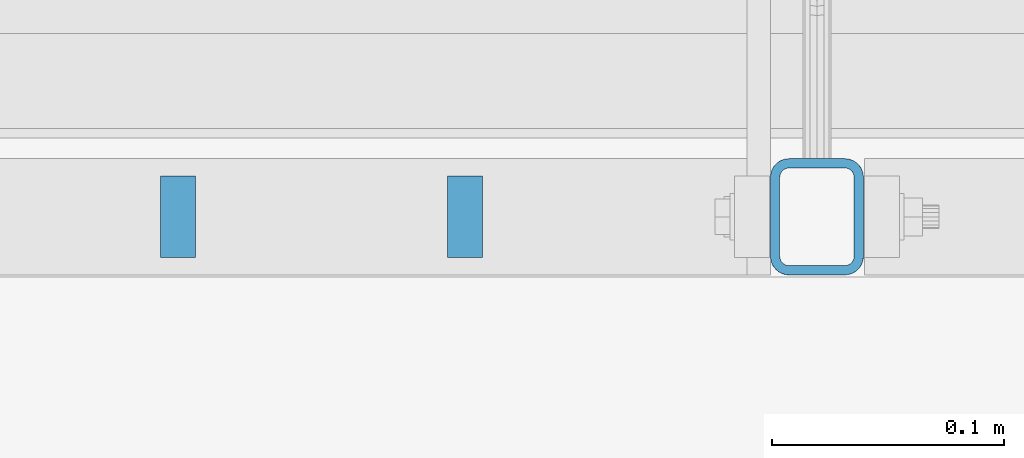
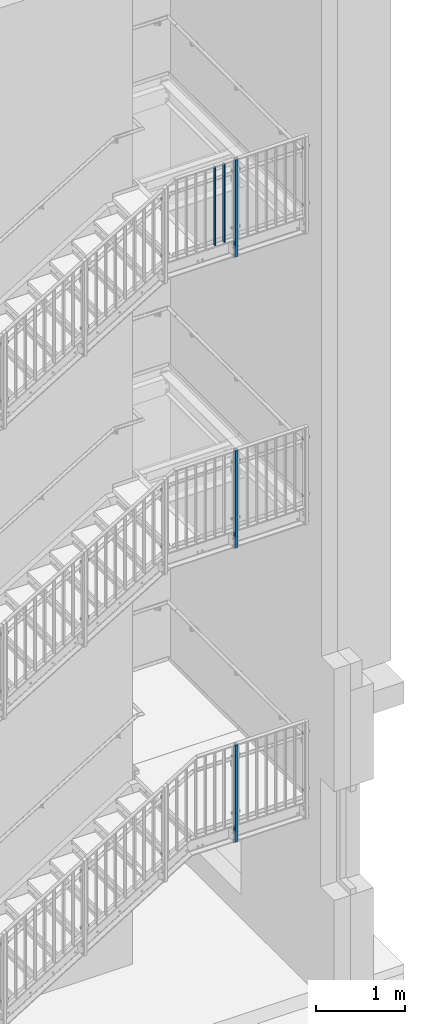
# One storey, part 20 of 410: 5 columns, 24 openings.
"""IFC2X3 building model written with IfcOpenShell, lengths in millimetres."""

from ifc_helpers import new_model, entity, si_unit, converted_unit, frame, frame_2d, origin, origin_with_axes, origin_2d, place, context, project, spatial, rectangle, hollow_rectangle, circle, extrude, clip, halfspace, material, element, save


model = new_model("IFC2X3")

# Units and contexts
model_context = context("Model", 3, precision=1e-09, world=origin_with_axes())
ifc_project = project(units=[si_unit("LENGTHUNIT", "METRE", prefix="MILLI"), si_unit("AREAUNIT", "SQUARE_METRE"), si_unit("VOLUMEUNIT", "CUBIC_METRE"), converted_unit("PLANEANGLEUNIT", "DEGREE", entity("IfcPlaneAngleMeasure", 0.01745329), si_unit("PLANEANGLEUNIT", "RADIAN"), dimensions=[0, 0, 0, 0, 0, 0, 0])], contexts=[model_context])

# Site, building, storey
site_placement = place(None, origin_with_axes())
site = spatial("IfcSite", under=ifc_project, at=site_placement, Name="mKR Teilneubau & Sanierung BA1 - Ostfildern", CompositionType="ELEMENT")
building_placement = place(site_placement, origin_with_axes())
building = spatial("IfcBuilding", under=site, at=building_placement, Name="Struktur 1", CompositionType="ELEMENT")
storey_placement = place(building_placement, origin_with_axes())
storey = spatial("IfcBuildingStorey", under=building, at=storey_placement, Name="Default Storey", CompositionType="ELEMENT", Elevation=0.0)

# Column, openings
ifc_material = material(Name="S235JR")
column_1_placement = place(None, frame((2285.001468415, 15405.999999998, 7020.0), z_axis=(0.0, 0.0, 1.0), x_axis=(-1.0, 0.0, 0.0)))
column_1 = element("IfcColumn", 1, at=column_1_placement, inside=storey, material=ifc_material, Name="-", ObjectType="-", context=model_context, shape_type="Clipping", body=[
    clip(extrude(hollow_rectangle(XDim=40.0, YDim=50.0, WallThickness=4.0, InnerFilletRadius=4.0, OuterFilletRadius=8.0, at=origin_2d()), origin(), (0.0, 0.0, -1.0), 1444.603221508), halfspace(frame((2285.001468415, 7677.073420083, 4018.051089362), z_axis=(0.0, -0.573576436, 0.819152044), x_axis=(1.0, 0.0, 0.0)), True)),
])
opening_1_placement = place(column_1_placement, frame((-20.5, 0.0, -1265.0), z_axis=(1.0, 0.0, 0.0), x_axis=(0.0, 1.0, 0.0)))
element("IfcOpeningElement", 2, at=opening_1_placement, cuts=column_1, ObjectType="Opening", context=model_context, shape_type="SweptSolid", body=[
    extrude(circle(Radius=7.001, at=frame_2d((0.0, 50.0), x_axis=(1.0, 0.0))), origin(), (0.0, 0.0, 1.0), 5.0),
])
opening_2_placement = place(column_1_placement, frame((-20.5, 0.0, -1265.0), z_axis=(1.0, 0.0, 0.0), x_axis=(0.0, 1.0, 0.0)))
element("IfcOpeningElement", 3, at=opening_2_placement, cuts=column_1, ObjectType="Opening", context=model_context, shape_type="SweptSolid", body=[
    extrude(circle(Radius=7.001, at=frame_2d((0.0, -50.0), x_axis=(1.0, 0.0))), origin(), (0.0, 0.0, 1.0), 5.0),
])
opening_3_placement = place(column_1_placement, frame((15.5, 0.0, -1265.0), z_axis=(1.0, 0.0, 0.0), x_axis=(0.0, 1.0, 0.0)))
element("IfcOpeningElement", 4, at=opening_3_placement, cuts=column_1, ObjectType="Opening", context=model_context, shape_type="SweptSolid", body=[
    extrude(circle(Radius=7.001, at=frame_2d((0.0, 50.0), x_axis=(1.0, 0.0))), origin(), (0.0, 0.0, 1.0), 5.0),
])
opening_4_placement = place(column_1_placement, frame((15.5, 0.0, -1265.0), z_axis=(1.0, 0.0, 0.0), x_axis=(0.0, 1.0, 0.0)))
element("IfcOpeningElement", 5, at=opening_4_placement, cuts=column_1, ObjectType="Opening", context=model_context, shape_type="SweptSolid", body=[
    extrude(circle(Radius=7.001, at=frame_2d((0.0, -50.0), x_axis=(1.0, 0.0))), origin(), (0.0, 0.0, 1.0), 5.0),
])
opening_5_placement = place(column_1_placement, frame((15.5, -6.501, -945.0), z_axis=(-1.0, 0.0, 0.0), x_axis=(0.0, -1.0, 0.0)))
element("IfcOpeningElement", 6, at=opening_5_placement, cuts=column_1, ObjectType="Opening", context=model_context, shape_type="SweptSolid", body=[
    extrude(circle(Radius=6.501, at=frame_2d((-6.501, 0.0), x_axis=(1.0, 0.0))), origin(), (0.0, 0.0, -1.0), 5.0),
])
opening_6_placement = place(column_1_placement, frame((15.5, -6.501, -160.0), z_axis=(-1.0, 0.0, 0.0), x_axis=(0.0, -1.0, 0.0)))
element("IfcOpeningElement", 7, at=opening_6_placement, cuts=column_1, ObjectType="Opening", context=model_context, shape_type="SweptSolid", body=[
    extrude(circle(Radius=6.501, at=frame_2d((-6.501, 0.0), x_axis=(1.0, 0.0))), origin(), (0.0, 0.0, -1.0), 5.0),
])
opening_7_placement = place(column_1_placement, frame((-20.5, -6.501, -945.0), z_axis=(-1.0, 0.0, 0.0), x_axis=(0.0, -1.0, 0.0)))
element("IfcOpeningElement", 8, at=opening_7_placement, cuts=column_1, ObjectType="Opening", context=model_context, shape_type="SweptSolid", body=[
    extrude(circle(Radius=6.501, at=frame_2d((-6.501, 0.0), x_axis=(1.0, 0.0))), origin(), (0.0, 0.0, -1.0), 5.0),
])
opening_8_placement = place(column_1_placement, frame((-20.5, -6.501, -160.0), z_axis=(-1.0, 0.0, 0.0), x_axis=(0.0, -1.0, 0.0)))
element("IfcOpeningElement", 9, at=opening_8_placement, cuts=column_1, ObjectType="Opening", context=model_context, shape_type="SweptSolid", body=[
    extrude(circle(Radius=6.501, at=frame_2d((-6.501, 0.0), x_axis=(1.0, 0.0))), origin(), (0.0, 0.0, -1.0), 5.0),
])

column_2_placement = place(None, frame((2285.001468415, 15405.999999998, 3008.0434785), z_axis=(0.0, 0.0, 1.0), x_axis=(-1.0, 0.0, 0.0)))
column_2 = element("IfcColumn", 10, at=column_2_placement, inside=storey, material=ifc_material, Name="-", ObjectType="-", context=model_context, shape_type="Clipping", body=[
    clip(extrude(hollow_rectangle(XDim=40.0, YDim=50.0, WallThickness=4.0, InnerFilletRadius=4.0, OuterFilletRadius=8.0, at=origin_2d()), origin(), (0.0, 0.0, -1.0), 1444.603221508), halfspace(frame((2285.001468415, 9562.076389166, 5337.944377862), z_axis=(0.0, -0.573576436, 0.819152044), x_axis=(1.0, 0.0, 0.0)), True)),
])
opening_9_placement = place(column_2_placement, frame((-20.5, 0.0, -1265.0), z_axis=(1.0, 0.0, 0.0), x_axis=(0.0, 1.0, 0.0)))
element("IfcOpeningElement", 11, at=opening_9_placement, cuts=column_2, ObjectType="Opening", context=model_context, shape_type="SweptSolid", body=[
    extrude(circle(Radius=7.001, at=frame_2d((0.0, 50.0), x_axis=(1.0, 0.0))), origin(), (0.0, 0.0, 1.0), 5.0),
])
opening_10_placement = place(column_2_placement, frame((-20.5, 0.0, -1265.0), z_axis=(1.0, 0.0, 0.0), x_axis=(0.0, 1.0, 0.0)))
element("IfcOpeningElement", 12, at=opening_10_placement, cuts=column_2, ObjectType="Opening", context=model_context, shape_type="SweptSolid", body=[
    extrude(circle(Radius=7.001, at=frame_2d((0.0, -50.0), x_axis=(1.0, 0.0))), origin(), (0.0, 0.0, 1.0), 5.0),
])
opening_11_placement = place(column_2_placement, frame((15.5, 0.0, -1265.0), z_axis=(1.0, 0.0, 0.0), x_axis=(0.0, 1.0, 0.0)))
element("IfcOpeningElement", 13, at=opening_11_placement, cuts=column_2, ObjectType="Opening", context=model_context, shape_type="SweptSolid", body=[
    extrude(circle(Radius=7.001, at=frame_2d((0.0, 50.0), x_axis=(1.0, 0.0))), origin(), (0.0, 0.0, 1.0), 5.0),
])
opening_12_placement = place(column_2_placement, frame((15.5, 0.0, -1265.0), z_axis=(1.0, 0.0, 0.0), x_axis=(0.0, 1.0, 0.0)))
element("IfcOpeningElement", 14, at=opening_12_placement, cuts=column_2, ObjectType="Opening", context=model_context, shape_type="SweptSolid", body=[
    extrude(circle(Radius=7.001, at=frame_2d((0.0, -50.0), x_axis=(1.0, 0.0))), origin(), (0.0, 0.0, 1.0), 5.0),
])
opening_13_placement = place(column_2_placement, frame((15.5, -6.501, -945.0), z_axis=(-1.0, 0.0, 0.0), x_axis=(0.0, -1.0, 0.0)))
element("IfcOpeningElement", 15, at=opening_13_placement, cuts=column_2, ObjectType="Opening", context=model_context, shape_type="SweptSolid", body=[
    extrude(circle(Radius=6.501, at=frame_2d((-6.501, 0.0), x_axis=(1.0, 0.0))), origin(), (0.0, 0.0, -1.0), 5.0),
])
opening_14_placement = place(column_2_placement, frame((15.5, -6.501, -160.0), z_axis=(-1.0, 0.0, 0.0), x_axis=(0.0, -1.0, 0.0)))
element("IfcOpeningElement", 16, at=opening_14_placement, cuts=column_2, ObjectType="Opening", context=model_context, shape_type="SweptSolid", body=[
    extrude(circle(Radius=6.501, at=frame_2d((-6.501, 0.0), x_axis=(1.0, 0.0))), origin(), (0.0, 0.0, -1.0), 5.0),
])
opening_15_placement = place(column_2_placement, frame((-20.5, -6.501, -945.0), z_axis=(-1.0, 0.0, 0.0), x_axis=(0.0, -1.0, 0.0)))
element("IfcOpeningElement", 17, at=opening_15_placement, cuts=column_2, ObjectType="Opening", context=model_context, shape_type="SweptSolid", body=[
    extrude(circle(Radius=6.501, at=frame_2d((-6.501, 0.0), x_axis=(1.0, 0.0))), origin(), (0.0, 0.0, -1.0), 5.0),
])
opening_16_placement = place(column_2_placement, frame((-20.5, -6.501, -160.0), z_axis=(-1.0, 0.0, 0.0), x_axis=(0.0, -1.0, 0.0)))
element("IfcOpeningElement", 18, at=opening_16_placement, cuts=column_2, ObjectType="Opening", context=model_context, shape_type="SweptSolid", body=[
    extrude(circle(Radius=6.501, at=frame_2d((-6.501, 0.0), x_axis=(1.0, 0.0))), origin(), (0.0, 0.0, -1.0), 5.0),
])

column_3_placement = place(None, frame((2285.001468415, 15405.999999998, -1050.6), z_axis=(0.0, 0.0, 1.0), x_axis=(-1.0, 0.0, 0.0)))
column_3 = element("IfcColumn", 19, at=column_3_placement, inside=storey, material=ifc_material, Name="-", ObjectType="-", context=model_context, shape_type="Clipping", body=[
    clip(extrude(hollow_rectangle(XDim=40.0, YDim=50.0, WallThickness=4.0, InnerFilletRadius=4.0, OuterFilletRadius=8.0, at=origin_2d()), origin(), (0.0, 0.0, -1.0), 1444.603221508), halfspace(frame((2285.001468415, 11469.01505274, 6673.197205), z_axis=(0.0, -0.573576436, 0.819152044), x_axis=(1.0, 0.0, 0.0)), True)),
])
opening_17_placement = place(column_3_placement, frame((-20.5, 0.0, -1265.0), z_axis=(1.0, 0.0, 0.0), x_axis=(0.0, 1.0, 0.0)))
element("IfcOpeningElement", 20, at=opening_17_placement, cuts=column_3, ObjectType="Opening", context=model_context, shape_type="SweptSolid", body=[
    extrude(circle(Radius=7.001, at=frame_2d((0.0, 50.0), x_axis=(1.0, 0.0))), origin(), (0.0, 0.0, 1.0), 5.0),
])
opening_18_placement = place(column_3_placement, frame((-20.5, 0.0, -1265.0), z_axis=(1.0, 0.0, 0.0), x_axis=(0.0, 1.0, 0.0)))
element("IfcOpeningElement", 21, at=opening_18_placement, cuts=column_3, ObjectType="Opening", context=model_context, shape_type="SweptSolid", body=[
    extrude(circle(Radius=7.001, at=frame_2d((0.0, -50.0), x_axis=(1.0, 0.0))), origin(), (0.0, 0.0, 1.0), 5.0),
])
opening_19_placement = place(column_3_placement, frame((15.5, 0.0, -1265.0), z_axis=(1.0, 0.0, 0.0), x_axis=(0.0, 1.0, 0.0)))
element("IfcOpeningElement", 22, at=opening_19_placement, cuts=column_3, ObjectType="Opening", context=model_context, shape_type="SweptSolid", body=[
    extrude(circle(Radius=7.001, at=frame_2d((0.0, 50.0), x_axis=(1.0, 0.0))), origin(), (0.0, 0.0, 1.0), 5.0),
])
opening_20_placement = place(column_3_placement, frame((15.5, 0.0, -1265.0), z_axis=(1.0, 0.0, 0.0), x_axis=(0.0, 1.0, 0.0)))
element("IfcOpeningElement", 23, at=opening_20_placement, cuts=column_3, ObjectType="Opening", context=model_context, shape_type="SweptSolid", body=[
    extrude(circle(Radius=7.001, at=frame_2d((0.0, -50.0), x_axis=(1.0, 0.0))), origin(), (0.0, 0.0, 1.0), 5.0),
])
opening_21_placement = place(column_3_placement, frame((15.5, -6.501, -945.0), z_axis=(-1.0, 0.0, 0.0), x_axis=(0.0, -1.0, 0.0)))
element("IfcOpeningElement", 24, at=opening_21_placement, cuts=column_3, ObjectType="Opening", context=model_context, shape_type="SweptSolid", body=[
    extrude(circle(Radius=6.501, at=frame_2d((-6.501, 0.0), x_axis=(1.0, 0.0))), origin(), (0.0, 0.0, -1.0), 5.0),
])
opening_22_placement = place(column_3_placement, frame((15.5, -6.501, -160.0), z_axis=(-1.0, 0.0, 0.0), x_axis=(0.0, -1.0, 0.0)))
element("IfcOpeningElement", 25, at=opening_22_placement, cuts=column_3, ObjectType="Opening", context=model_context, shape_type="SweptSolid", body=[
    extrude(circle(Radius=6.501, at=frame_2d((-6.501, 0.0), x_axis=(1.0, 0.0))), origin(), (0.0, 0.0, -1.0), 5.0),
])
opening_23_placement = place(column_3_placement, frame((-20.5, -6.501, -945.0), z_axis=(-1.0, 0.0, 0.0), x_axis=(0.0, -1.0, 0.0)))
element("IfcOpeningElement", 26, at=opening_23_placement, cuts=column_3, ObjectType="Opening", context=model_context, shape_type="SweptSolid", body=[
    extrude(circle(Radius=6.501, at=frame_2d((-6.501, 0.0), x_axis=(1.0, 0.0))), origin(), (0.0, 0.0, -1.0), 5.0),
])
opening_24_placement = place(column_3_placement, frame((-20.5, -6.501, -160.0), z_axis=(-1.0, 0.0, 0.0), x_axis=(0.0, -1.0, 0.0)))
element("IfcOpeningElement", 27, at=opening_24_placement, cuts=column_3, ObjectType="Opening", context=model_context, shape_type="SweptSolid", body=[
    extrude(circle(Radius=6.501, at=frame_2d((-6.501, 0.0), x_axis=(1.0, 0.0))), origin(), (0.0, 0.0, -1.0), 5.0),
])

# Columns
for number, where, z_axis, x_axis in (
    (28, (2133.572897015, 15405.999999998, 5925.0), (0.0, 0.0, -1.0), (1.0, 0.0, 0.0)),
    (29, (2010.144325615, 15405.999999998, 5925.0), (0.0, 0.0, -1.0), (1.0, 0.0, 0.0)),
):
    element("IfcColumn", number, at=place(None, frame(where, z_axis=z_axis, x_axis=x_axis)), inside=storey, material=ifc_material, Name="-", ObjectType="-", context=model_context, shape_type="SweptSolid", body=[
        extrude(rectangle(XDim=15.0, YDim=35.0, at=origin_2d()), origin(), (0.0, 0.0, -1.0), 1085.0),
    ])

save(model, "model.ifc")
